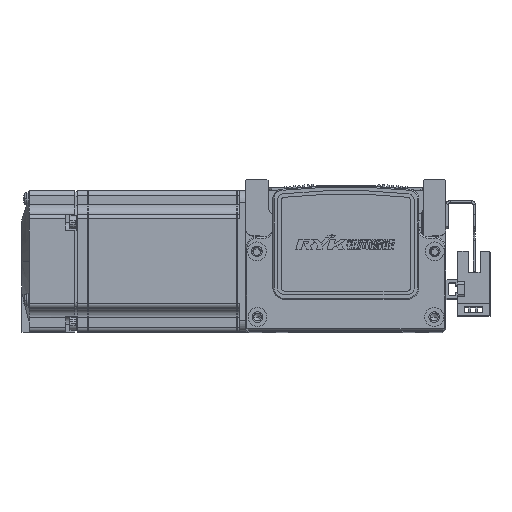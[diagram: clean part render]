
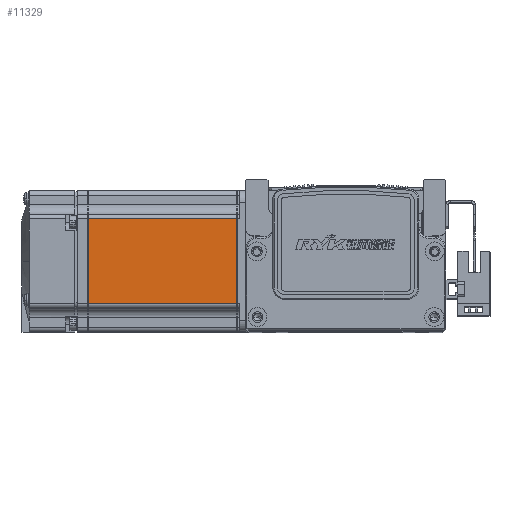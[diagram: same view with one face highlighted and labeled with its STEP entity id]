
A CAD part, top view. The second image highlights one B-rep face of the part: STEP entity #11329.
In plain terms, the highlighted planar face has unit normal (0, 0, 1) as drawn and (0, 0, -1) by its records, which use the part's own axes.
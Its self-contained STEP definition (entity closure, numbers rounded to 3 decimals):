
#4276 = FACE_OUTER_BOUND ( 'NONE', #71366, .T. ) ;
#8497 = CARTESIAN_POINT ( 'NONE',  ( -6.5, -18., -30. ) ) ;
#8502 = DIRECTION ( 'NONE',  ( -1., 0., 0. ) ) ;
#8512 = DIRECTION ( 'NONE',  ( 0., 1., 0. ) ) ;
#8527 = CARTESIAN_POINT ( 'NONE',  ( -70.95, 25., -30. ) ) ;
#8587 = DIRECTION ( 'NONE',  ( 1., 0., 0. ) ) ;
#8612 = CARTESIAN_POINT ( 'NONE',  ( -6.5, 18., -30. ) ) ;
#8751 = DIRECTION ( 'NONE',  ( 0., -1., 0. ) ) ;
#8772 = CARTESIAN_POINT ( 'NONE',  ( -7.75, 25., -30. ) ) ;
#11329 = ADVANCED_FACE ( 'NONE', ( #4276 ), #68647, .T. ) ;
#13261 = VERTEX_POINT ( 'NONE', #26086 ) ;
#13307 = VERTEX_POINT ( 'NONE', #26088 ) ;
#13321 = VERTEX_POINT ( 'NONE', #26208 ) ;
#13350 = VERTEX_POINT ( 'NONE', #26181 ) ;
#19435 = VECTOR ( 'NONE', #8512, 1000. ) ;
#19460 = VECTOR ( 'NONE', #8502, 1000. ) ;
#19472 = LINE ( 'NONE', #8497, #19460 ) ;
#19478 = LINE ( 'NONE', #8527, #19435 ) ;
#19515 = VECTOR ( 'NONE', #8587, 1000. ) ;
#19518 = LINE ( 'NONE', #8612, #19515 ) ;
#19561 = LINE ( 'NONE', #8772, #19606 ) ;
#19606 = VECTOR ( 'NONE', #8751, 1000. ) ;
#26086 = CARTESIAN_POINT ( 'NONE',  ( -7.75, -18., -30. ) ) ;
#26088 = CARTESIAN_POINT ( 'NONE',  ( -7.75, 18., -30. ) ) ;
#26181 = CARTESIAN_POINT ( 'NONE',  ( -70.95, 18., -30. ) ) ;
#26208 = CARTESIAN_POINT ( 'NONE',  ( -70.95, -18., -30. ) ) ;
#39816 = AXIS2_PLACEMENT_3D ( 'NONE', #68645, #68624, #68605 ) ;
#42630 = EDGE_CURVE ( 'NONE', #13321, #13350, #19478, .T. ) ;
#42651 = EDGE_CURVE ( 'NONE', #13261, #13321, #19472, .T. ) ;
#42718 = EDGE_CURVE ( 'NONE', #13350, #13307, #19518, .T. ) ;
#42842 = EDGE_CURVE ( 'NONE', #13307, #13261, #19561, .T. ) ;
#51977 = ORIENTED_EDGE ( 'NONE', *, *, #42842, .T. ) ;
#51979 = ORIENTED_EDGE ( 'NONE', *, *, #42630, .T. ) ;
#51982 = ORIENTED_EDGE ( 'NONE', *, *, #42718, .T. ) ;
#52041 = ORIENTED_EDGE ( 'NONE', *, *, #42651, .T. ) ;
#68605 = DIRECTION ( 'NONE',  ( -1., 0., 0. ) ) ;
#68624 = DIRECTION ( 'NONE',  ( 0., 0., -1. ) ) ;
#68645 = CARTESIAN_POINT ( 'NONE',  ( -6.5, 25., -30. ) ) ;
#68647 = PLANE ( 'NONE',  #39816 ) ;
#71366 = EDGE_LOOP ( 'NONE', ( #51977, #52041, #51979, #51982 ) ) ;
